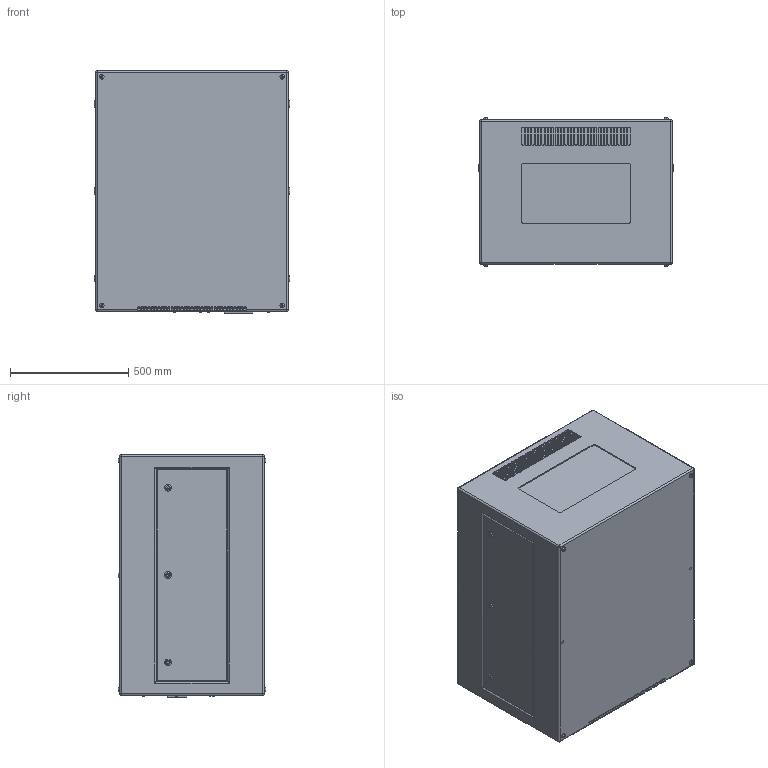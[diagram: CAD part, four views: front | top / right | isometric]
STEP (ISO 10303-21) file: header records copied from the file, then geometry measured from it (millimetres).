
FILE_DESCRIPTION (( 'STEP AP214' ), '1' );
FILE_NAME ('Zen 57.100.L R11 Landscape Hush Enclosure.STEP', '2021-04-23T00:25:30', ( '' ), ( '' ), 'SwSTEP 2.0', 'SolidWorks 2020', '' );
FILE_SCHEMA (( 'AUTOMOTIVE_DESIGN' ));
Length unit declared in the file: inch
Products named in the file (1): Zen 57.100.L R11 Landscape Hush Enclosure
Bounding box: 825.5 x 624.33 x 1023.62 mm (x, y, z)
Volume: 501599258.4 mm3; surface area: 4312035.4 mm2
Topology: 1 solids, 1 shells, 1125 faces, 2838 edges, 1746 vertices
Faces by surface type: plane 515, cylinder 484, sphere 74, torus 52
Entity records: 36313 total; most frequent: DIRECTION 6040, CARTESIAN_POINT 5684, ORIENTED_EDGE 5528, EDGE_CURVE 2764, AXIS2_PLACEMENT_3D 2166, VERTEX_POINT 1746, LINE 1708, VECTOR 1708
